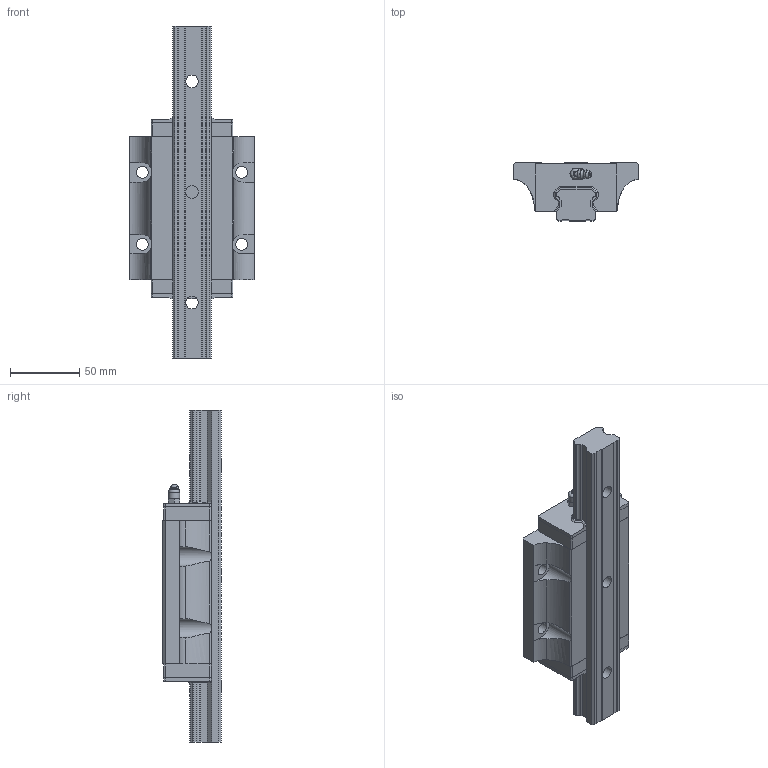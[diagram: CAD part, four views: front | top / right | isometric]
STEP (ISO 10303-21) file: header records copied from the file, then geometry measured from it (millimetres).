
FILE_DESCRIPTION((''),'2;1');
FILE_NAME('C:\Documents and Settings\土屋\My Documents\土屋移動用フォルダ\製品 (図面)\カタログ用3D\リニアガイド\EGH-FL\EGH30FL.stp','2015-12-16T09:24:53',('y'),(''),'Autodesk Inventor 11','Autodesk Inventor 11','');
FILE_SCHEMA(('AUTOMOTIVE_DESIGN { 1 0 10303 214 1 1 1 1 }'));
Length unit declared in the file: millimetre
Products named in the file (3): EGH30FL; EGH30FLレール; EGH30FLキャリッジ
Assembly tree (2 placements, depth 2):
  EGH30FL
    EGH30FLレール
    EGH30FLキャリッジ
Bounding box: 90 x 42 x 240 mm (x, y, z)
Volume: 393283.3 mm3; surface area: 81521.6 mm2
Topology: 7 solids, 7 shells, 337 faces, 934 edges, 617 vertices
Faces by surface type: plane 191, cylinder 110, cone 20, bspline 14, torus 1, sphere 1
Full cylindrical faces by diameter (mm): 6 x5, 7.75 x1, 8 x1, 8.6 x4, 9 x3, 14 x3
Entity records: 11313 total; most frequent: CARTESIAN_POINT 2620, ORIENTED_EDGE 1796, DIRECTION 1772, EDGE_CURVE 898, VERTEX_POINT 607, VECTOR 598, LINE 598, AXIS2_PLACEMENT_3D 587
